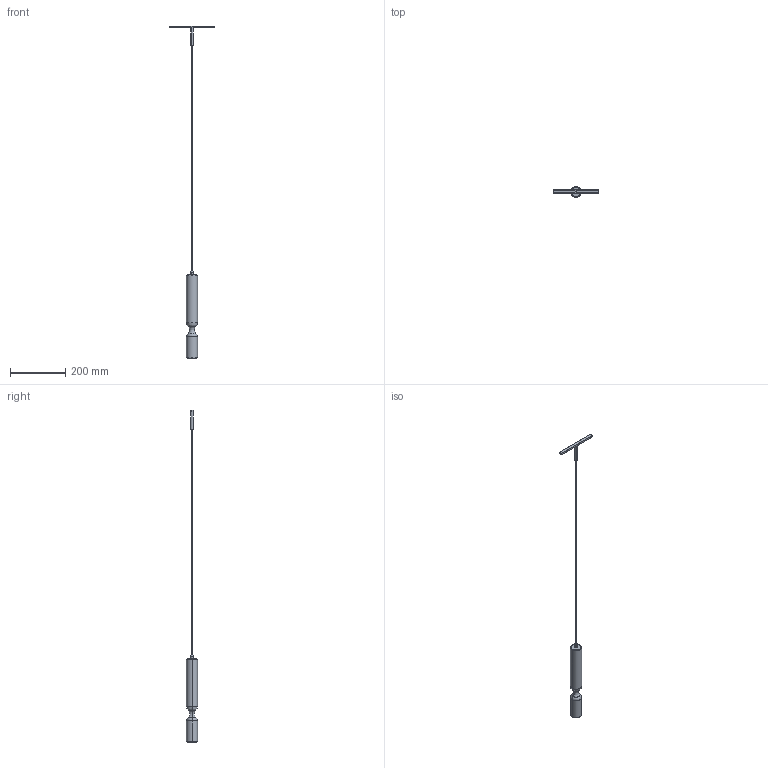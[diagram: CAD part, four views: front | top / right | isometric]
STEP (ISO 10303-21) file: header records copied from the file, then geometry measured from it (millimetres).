
FILE_DESCRIPTION(/* description */ (''),/* implementation_level */ '2;1');
FILE_NAME(/* name */ 'MISTY MICRO - STREAM',/* time_stamp */ '2025-10-30T15:38:29+01:00',/* author */ (''),/* organization */ (''),/* preprocessor_version */ 'ST-DEVELOPER v19.2',/* originating_system */ 'Rhino 8.24',/* authorisation */ '');
FILE_SCHEMA (('CONFIG_CONTROL_DESIGN'));
Length unit declared in the file: millimetre
Products named in the file (1): Document
Bounding box: 160.11 x 40 x 1199 mm (x, y, z)
Volume: 126699.3 mm3; surface area: 106096 mm2
Topology: 7 solids, 8 shells, 137 faces, 357 edges, 237 vertices
Faces by surface type: cylinder 52, bspline 52, plane 33
Entity records: 6443 total; most frequent: CARTESIAN_POINT 3046, ORIENTED_EDGE 706, DIRECTION 557, EDGE_CURVE 355, AXIS2_PLACEMENT_3D 321, VERTEX_POINT 237, TRIMMED_CURVE 233, CIRCLE 233
